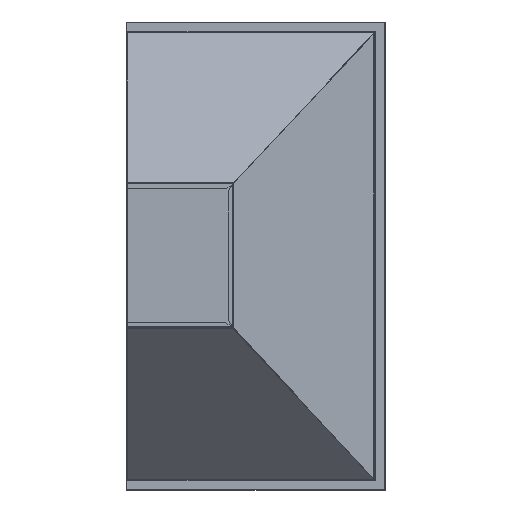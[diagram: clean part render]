
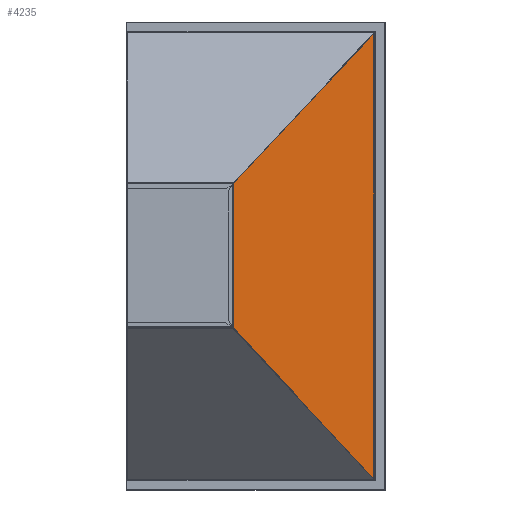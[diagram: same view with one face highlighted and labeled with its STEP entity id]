
A CAD part, top view. The second image highlights one B-rep face of the part: STEP entity #4235.
In plain terms, the highlighted planar face has unit normal (0.744, 0, 0.669).
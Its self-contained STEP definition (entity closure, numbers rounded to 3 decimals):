
#4176=CARTESIAN_POINT('Vertex',(101.77,137.36,-1.)) ;
#4190=CARTESIAN_POINT('Vertex',(101.77,-139.,-1.)) ;
#4193=CARTESIAN_POINT('Line Origine',(101.77,-0.82,-1.)) ;
#4205=CARTESIAN_POINT('Axis2P3D Location',(159.836,-0.82,-65.583)) ;
#4210=CARTESIAN_POINT('Line Origine',(236.635,-283.66,-151.)) ;
#4214=CARTESIAN_POINT('Vertex',(371.5,-428.32,-301.)) ;
#4217=CARTESIAN_POINT('Line Origine',(371.5,-0.82,-301.)) ;
#4221=CARTESIAN_POINT('Vertex',(371.5,426.68,-301.)) ;
#4224=CARTESIAN_POINT('Line Origine',(236.635,282.02,-151.)) ;
#4194=DIRECTION('Vector Direction',(0.,1.,0.)) ;
#4206=DIRECTION('Axis2P3D Direction',(0.744,0.,0.669)) ;
#4207=DIRECTION('Axis2P3D XDirection',(0.,1.,0.)) ;
#4211=DIRECTION('Vector Direction',(0.543,-0.583,-0.604)) ;
#4218=DIRECTION('Vector Direction',(0.,1.,0.)) ;
#4225=DIRECTION('Vector Direction',(0.543,0.583,-0.604)) ;
#4208=AXIS2_PLACEMENT_3D('Plane Axis2P3D',#4205,#4206,#4207) ;
#4230=ORIENTED_EDGE('',*,*,#4216,.T.) ;
#4231=ORIENTED_EDGE('',*,*,#4223,.T.) ;
#4232=ORIENTED_EDGE('',*,*,#4228,.T.) ;
#4233=ORIENTED_EDGE('',*,*,#4197,.T.) ;
#4195=VECTOR('Line Direction',#4194,1.) ;
#4212=VECTOR('Line Direction',#4211,1.) ;
#4219=VECTOR('Line Direction',#4218,1.) ;
#4226=VECTOR('Line Direction',#4225,1.) ;
#4235=ADVANCED_FACE('Involucro',(#4234),#4209,.T.) ;
#4197=EDGE_CURVE('',#4177,#4191,#4196,.F.) ;
#4216=EDGE_CURVE('',#4191,#4215,#4213,.T.) ;
#4223=EDGE_CURVE('',#4215,#4222,#4220,.T.) ;
#4228=EDGE_CURVE('',#4222,#4177,#4227,.F.) ;
#4229=EDGE_LOOP('',(#4230,#4231,#4232,#4233)) ;
#4234=FACE_OUTER_BOUND('',#4229,.T.) ;
#4196=LINE('Line',#4193,#4195) ;
#4213=LINE('Line',#4210,#4212) ;
#4220=LINE('Line',#4217,#4219) ;
#4227=LINE('Line',#4224,#4226) ;
#4209=PLANE('',#4208) ;
#4177=VERTEX_POINT('',#4176) ;
#4191=VERTEX_POINT('',#4190) ;
#4215=VERTEX_POINT('',#4214) ;
#4222=VERTEX_POINT('',#4221) ;
